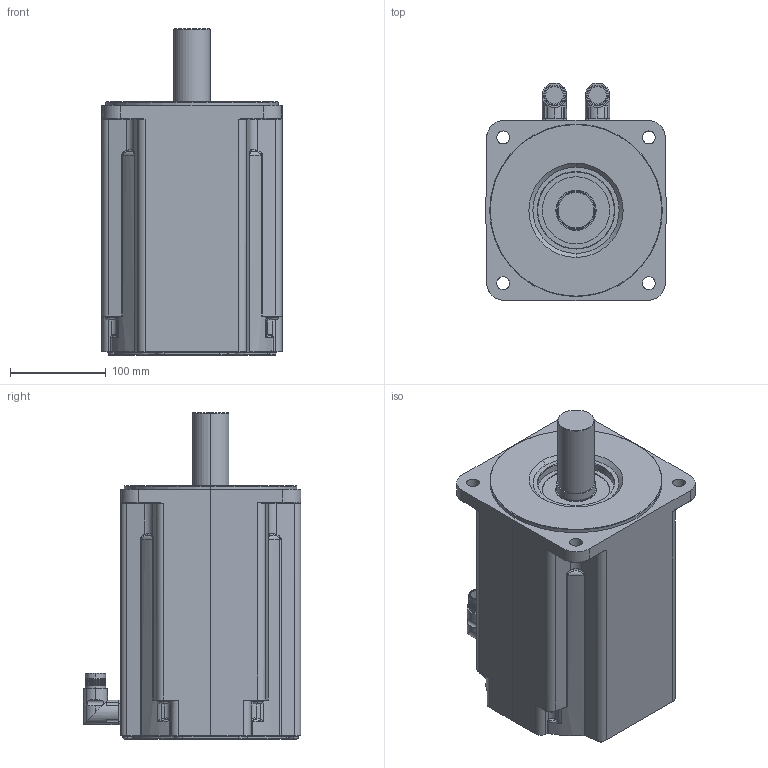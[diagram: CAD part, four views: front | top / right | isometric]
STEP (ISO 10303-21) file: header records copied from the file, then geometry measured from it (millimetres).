
FILE_DESCRIPTION (( 'STEP AP214' ), '1' );
FILE_NAME ('MR7774-Ux-Nxx-G01-A0D-M0-P0.stp', '2009-04-08T13:46:00', ( 'SysAdmin' ), ( 'SolidWorks' ), 'SwSTEP 2.0', 'SolidWorks 2009', '' );
FILE_SCHEMA (( 'AUTOMOTIVE_DESIGN' ));
Length unit declared in the file: millimetre
Products named in the file (1): MR7774-Ux-Nxx-G01-A0D-M0-P0
Bounding box: 188 x 227 x 340.5 mm (x, y, z)
Volume: 8128279 mm3; surface area: 274453 mm2
Topology: 1 solids, 1 shells, 648 faces, 1584 edges, 944 vertices
Faces by surface type: cylinder 232, bspline 128, plane 124, cone 108, torus 56
Entity records: 27143 total; most frequent: CARTESIAN_POINT 8981, ORIENTED_EDGE 3128, DIRECTION 2852, EDGE_CURVE 1564, AXIS2_PLACEMENT_3D 1207, VERTEX_POINT 944, CIRCLE 686, EDGE_LOOP 682
